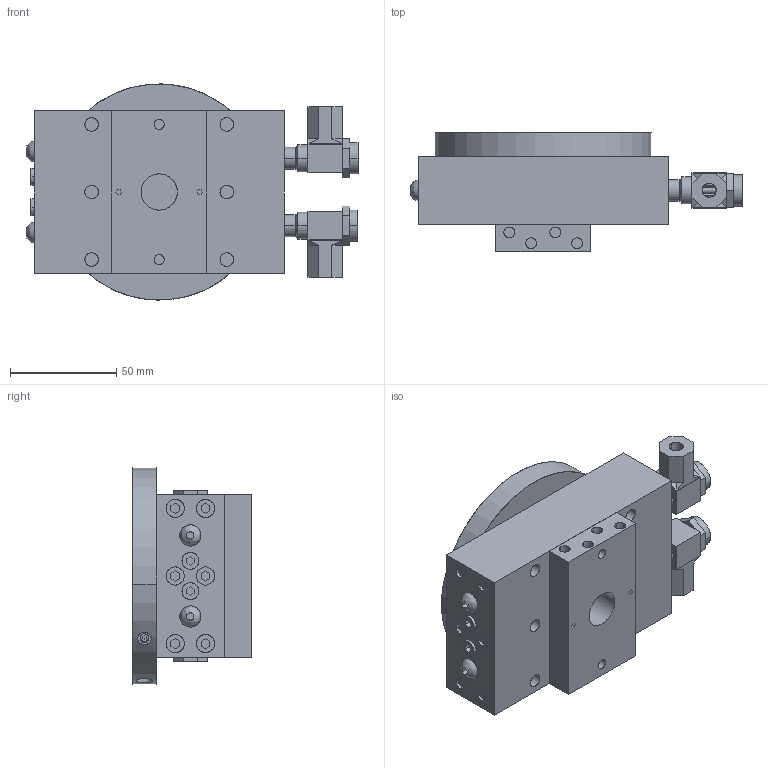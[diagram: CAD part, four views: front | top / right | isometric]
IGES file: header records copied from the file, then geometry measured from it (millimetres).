
Start section: SolidWorks IGES file using analytic representation for surfaces
Global section: file name: C:\Users\jmkuhnes\Pictures\My Transfers\AGR\AGR-3\AGR-3 60-180M in MM.IGS; native system: SolidWorks 2013; preprocessor: SolidWorks 2013; author: jmkuhnes; date: 141105.125527; units: millimetre
Bounding box: 156 x 55.88 x 101.58 mm (x, y, z)
Surface area: 85486.9 mm2 (no closed solid volume)
Topology: 0 solids, 0 shells, 505 faces, 7938 edges, 7938 vertices
Faces by surface type: bspline 322, revolution 183
